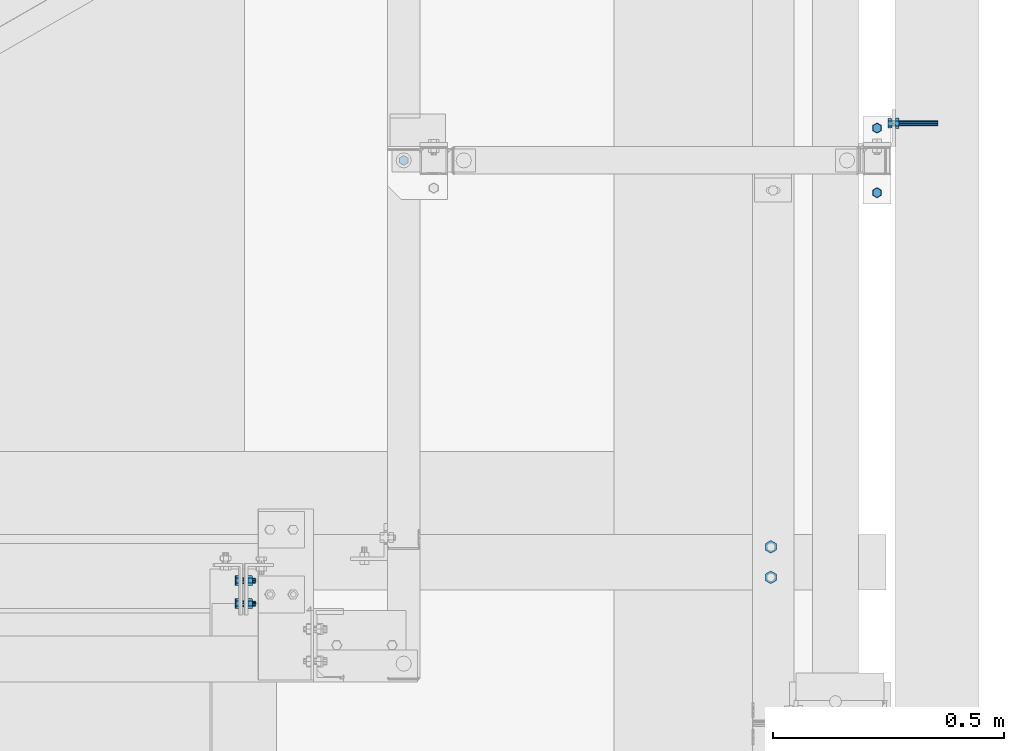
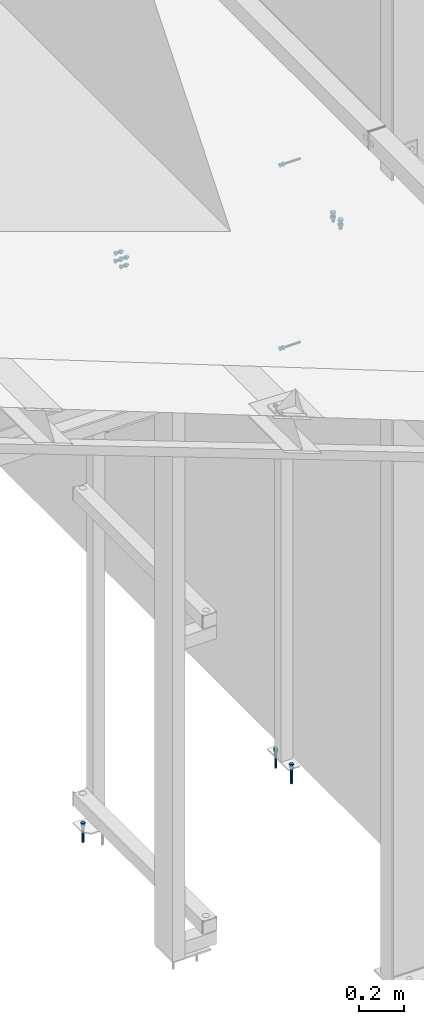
# One storey, part 395 of 3134: 7 mechanical fasteners, 6 elements without a shape of their own.
"""IFC2X3 building model written with IfcOpenShell, lengths in millimetres."""

from ifc_helpers import new_model, si_unit, frame, origin_with_axes, place, context, subcontext, project, spatial, faceted_brep, source, transform, mapped, material, type_object, element, aggregate, save


model = new_model("IFC2X3")

# Units and contexts
model_context = context("Model", 3, precision=1e-05, world=origin_with_axes())
body_context = subcontext(model_context, "Body", "Model", "MODEL_VIEW")
ifc_project = project(units=[si_unit("LENGTHUNIT", "METRE", prefix="MILLI"), si_unit("AREAUNIT", "SQUARE_METRE"), si_unit("VOLUMEUNIT", "CUBIC_METRE"), si_unit("MASSUNIT", "GRAM", prefix="KILO"), si_unit("TIMEUNIT", "SECOND"), si_unit("PLANEANGLEUNIT", "RADIAN"), si_unit("SOLIDANGLEUNIT", "STERADIAN"), si_unit("THERMODYNAMICTEMPERATUREUNIT", "DEGREE_CELSIUS"), si_unit("LUMINOUSINTENSITYUNIT", "LUMEN")], contexts=[model_context])

# Site, building, storey
site_placement = place(None, origin_with_axes())
site = spatial("IfcSite", under=ifc_project, at=site_placement, CompositionType="ELEMENT")
building_placement = place(site_placement, origin_with_axes())
building = spatial("IfcBuilding", under=site, at=building_placement, Name="Undefined", CompositionType="ELEMENT")
storey_placement = place(building_placement, origin_with_axes())
storey = spatial("IfcBuildingStorey", under=building, at=storey_placement, Name="Undefined", CompositionType="ELEMENT", Elevation=0.0)

# Assembly, mechanical fastener
assembly_1_placement = place(storey_placement, origin_with_axes())
assembly_1 = element("IfcElementAssembly", 1, at=assembly_1_placement, inside=storey, AssemblyPlace="NOTDEFINED", PredefinedType="RIGID_FRAME")
ifc_material_1 = material(Name="HILTI-HSA")
mechanical_fastener_type = type_object("IfcMechanicalFastenerType", Name="Bolt assembly")
shared_shape_1 = source(origin_with_axes(), body_context, "Body", "Brep", [
    faceted_brep([(10.3923048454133, -13.92, 0.0), (5.19615242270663, -13.92, 9.0), (-5.19615242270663, -13.92, 9.0), (-10.3923048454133, -13.92, 1.27269028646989e-15), (-5.19615242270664, -13.92, -9.0), (5.19615242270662, -13.92, -9.0), (5.19615242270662, -6.0, -9.0), (-5.19615242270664, -6.0, -9.0), (-10.3923048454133, -6.0, 1.27269028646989e-15), (-5.19615242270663, -6.0, 9.0), (5.19615242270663, -6.0, 9.0), (10.3923048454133, -6.0, 0.0), (6.0, -6.0, 0.0), (5.19615242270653, -6.0, 3.00000000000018), (2.99999999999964, -6.0, 5.19615242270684), (-6.21801588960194e-13, -6.0, 6.0), (-3.00000000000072, -6.0, 5.19615242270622), (-5.19615242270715, -6.0, 2.9999999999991), (-6.0, -6.0, -1.24360317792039e-12), (-5.19615242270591, -6.0, -3.00000000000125), (-2.99999999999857, -6.0, -5.19615242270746), (1.85874342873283e-12, -6.0, -6.0), (3.00000000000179, -6.0, -5.1961524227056), (5.19615242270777, -6.0, -2.99999999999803), (5.19615242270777, 94.0, -2.99999999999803), (3.00000000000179, 94.0, -5.1961524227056), (1.85874342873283e-12, 94.0, -6.0), (-2.99999999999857, 94.0, -5.19615242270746), (-5.19615242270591, 94.0, -3.00000000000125), (-6.0, 94.0, -1.24360317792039e-12), (-5.19615242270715, 94.0, 2.9999999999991), (-3.00000000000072, 94.0, 5.19615242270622), (-6.21801588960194e-13, 94.0, 6.0), (2.99999999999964, 94.0, 5.19615242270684), (5.19615242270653, 94.0, 3.00000000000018), (6.0, 94.0, 0.0), (11.5008173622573, 0.0, 0.0), (5.75040868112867, 0.0, 9.96), (-5.75040868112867, 0.0, 9.96), (-11.5008173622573, 0.0, 1.40844391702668e-15), (-5.75040868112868, 0.0, -9.96), (5.75040868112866, 0.0, -9.96), (5.75040868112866, 7.92, -9.96), (-5.75040868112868, 7.92, -9.96), (-11.5008173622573, 7.92, 1.40844391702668e-15), (-5.75040868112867, 7.92, 9.96), (5.75040868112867, 7.92, 9.96), (11.5008173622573, 7.92, 0.0)], [[[0, 1, 2, 3, 4, 5]], [[6, 7, 8, 9, 10, 11]], [[0, 11, 10, 1]], [[1, 10, 9, 2]], [[2, 9, 8, 3]], [[3, 8, 7, 4]], [[4, 7, 6, 5]], [[5, 6, 11, 0]], [[12, 13, 14, 15, 16, 17, 18, 19, 20, 21, 22, 23]], [[24, 25, 26, 27, 28, 29, 30, 31, 32, 33, 34, 35]], [[12, 35, 34, 13]], [[13, 34, 33, 14]], [[14, 33, 32, 15]], [[15, 32, 31, 16]], [[16, 31, 30, 17]], [[17, 30, 29, 18]], [[18, 29, 28, 19]], [[19, 28, 27, 20]], [[20, 27, 26, 21]], [[21, 26, 25, 22]], [[22, 25, 24, 23]], [[23, 24, 35, 12]], [[36, 37, 38, 39, 40, 41]], [[42, 43, 44, 45, 46, 47]], [[36, 47, 46, 37]], [[37, 46, 45, 38]], [[38, 45, 44, 39]], [[39, 44, 43, 40]], [[40, 43, 42, 41]], [[41, 42, 47, 36]]]),
    faceted_brep([(7.0, -6.0, 0.0), (6.06217782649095, -6.0, 3.50000000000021), (3.49999999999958, -6.0, 6.06217782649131), (-7.25435187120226e-13, -6.0, 7.0), (-3.50000000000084, -6.0, 6.06217782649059), (-6.06217782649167, -6.0, 3.49999999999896), (-7.0, -6.0, -1.45087037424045e-12), (-6.06217782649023, -6.0, -3.50000000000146), (-3.49999999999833, -6.0, -6.06217782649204), (2.1685340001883e-12, -6.0, -7.0), (3.50000000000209, -6.0, -6.06217782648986), (6.0621778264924, -6.0, -3.4999999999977), (6.0621778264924, 0.0999999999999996, -3.4999999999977), (3.50000000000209, 0.0999999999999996, -6.06217782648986), (2.1685340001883e-12, 0.0999999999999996, -7.0), (-3.49999999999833, 0.0999999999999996, -6.06217782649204), (-6.06217782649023, 0.0999999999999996, -3.50000000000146), (-7.0, 0.0999999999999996, -1.45087037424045e-12), (-6.06217782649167, 0.0999999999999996, 3.49999999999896), (-3.50000000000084, 0.0999999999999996, 6.06217782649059), (-7.25435187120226e-13, 0.0999999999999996, 7.0), (3.49999999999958, 0.0999999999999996, 6.06217782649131), (6.06217782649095, 0.0999999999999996, 3.50000000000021), (7.0, 0.0999999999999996, 0.0)], [[[0, 1, 2, 3, 4, 5, 6, 7, 8, 9, 10, 11]], [[12, 13, 14, 15, 16, 17, 18, 19, 20, 21, 22, 23]], [[0, 23, 22, 1]], [[1, 22, 21, 2]], [[2, 21, 20, 3]], [[3, 20, 19, 4]], [[4, 19, 18, 5]], [[5, 18, 17, 6]], [[6, 17, 16, 7]], [[7, 16, 15, 8]], [[8, 15, 14, 9]], [[9, 14, 13, 10]], [[10, 13, 12, 11]], [[11, 12, 23, 0]]]),
])
mechanical_fastener_1_placement = place(assembly_1_placement, frame((78290.0, 20670.0, 0.0), z_axis=(-1.0, 0.0, 0.0), x_axis=(0.0, 1.0, 0.0)))
mechanical_fastener_1 = element("IfcMechanicalFastener", 2, at=mechanical_fastener_1_placement, type_object=mechanical_fastener_type, material=ifc_material_1, Name="Bolt assembly", NominalDiameter=12.0, NominalLength=100.0, context=body_context, shape_type="MappedRepresentation", body=[
    mapped(shared_shape_1, transform((0.0, 0.0, 0.0))),
])
aggregate(assembly_1, [mechanical_fastener_1])

# Assembly, mechanical fasteners
assembly_2_placement = place(storey_placement, origin_with_axes())
assembly_2 = element("IfcElementAssembly", 3, at=assembly_2_placement, inside=storey, AssemblyPlace="NOTDEFINED", PredefinedType="RIGID_FRAME")
mechanical_fastener_2_placement = place(assembly_2_placement, frame((79314.9999999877, 20740.0, 0.0), z_axis=(1.0, 0.0, 0.0), x_axis=(0.0, -1.0, 0.0)))
mechanical_fastener_2 = element("IfcMechanicalFastener", 4, at=mechanical_fastener_2_placement, type_object=mechanical_fastener_type, material=ifc_material_1, Name="Bolt assembly", NominalDiameter=12.0, NominalLength=100.0, context=body_context, shape_type="MappedRepresentation", body=[
    mapped(shared_shape_1, transform((0.0, 0.0, 0.0))),
])
mechanical_fastener_3_placement = place(assembly_2_placement, frame((79314.9999999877, 20600.0, 0.0), z_axis=(-1.0, 0.0, 0.0), x_axis=(0.0, 1.0, 0.0)))
mechanical_fastener_3 = element("IfcMechanicalFastener", 5, at=mechanical_fastener_3_placement, type_object=mechanical_fastener_type, material=ifc_material_1, Name="Bolt assembly", NominalDiameter=12.0, NominalLength=100.0, context=body_context, shape_type="MappedRepresentation", body=[
    mapped(shared_shape_1, transform((0.0, 0.0, 0.0))),
])
aggregate(assembly_2, [mechanical_fastener_2, mechanical_fastener_3])

# Assembly, mechanical fastener
assembly_3_placement = place(storey_placement, origin_with_axes())
assembly_3 = element("IfcElementAssembly", 6, at=assembly_3_placement, inside=storey, AssemblyPlace="NOTDEFINED", PredefinedType="RIGID_FRAME")
shared_shape_2 = source(origin_with_axes(), body_context, "Body", "Brep", [
    faceted_brep([(10.3923048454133, -15.92, 0.0), (5.19615242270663, -15.92, 9.0), (-5.19615242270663, -15.92, 9.0), (-10.3923048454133, -15.92, 1.27269028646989e-15), (-5.19615242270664, -15.92, -9.0), (5.19615242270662, -15.92, -9.0), (5.19615242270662, -8.0, -9.0), (-5.19615242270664, -8.0, -9.0), (-10.3923048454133, -8.0, 1.27269028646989e-15), (-5.19615242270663, -8.0, 9.0), (5.19615242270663, -8.0, 9.0), (10.3923048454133, -8.0, 0.0), (6.0, -8.0, 0.0), (5.19615242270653, -8.0, 3.00000000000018), (2.99999999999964, -8.0, 5.19615242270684), (-6.21801588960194e-13, -8.0, 6.0), (-3.00000000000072, -8.0, 5.19615242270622), (-5.19615242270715, -8.0, 2.9999999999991), (-6.0, -8.0, -1.24360317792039e-12), (-5.19615242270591, -8.0, -3.00000000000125), (-2.99999999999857, -8.0, -5.19615242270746), (1.85874342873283e-12, -8.0, -6.0), (3.00000000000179, -8.0, -5.1961524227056), (5.19615242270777, -8.0, -2.99999999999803), (5.19615242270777, 92.0, -2.99999999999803), (3.00000000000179, 92.0, -5.1961524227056), (1.85874342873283e-12, 92.0, -6.0), (-2.99999999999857, 92.0, -5.19615242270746), (-5.19615242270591, 92.0, -3.00000000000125), (-6.0, 92.0, -1.24360317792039e-12), (-5.19615242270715, 92.0, 2.9999999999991), (-3.00000000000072, 92.0, 5.19615242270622), (-6.21801588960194e-13, 92.0, 6.0), (2.99999999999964, 92.0, 5.19615242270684), (5.19615242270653, 92.0, 3.00000000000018), (6.0, 92.0, 0.0), (11.5008173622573, 0.0, 0.0), (5.75040868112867, 0.0, 9.96), (-5.75040868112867, 0.0, 9.96), (-11.5008173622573, 0.0, 1.40844391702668e-15), (-5.75040868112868, 0.0, -9.96), (5.75040868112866, 0.0, -9.96), (5.75040868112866, 7.92, -9.96), (-5.75040868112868, 7.92, -9.96), (-11.5008173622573, 7.92, 1.40844391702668e-15), (-5.75040868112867, 7.92, 9.96), (5.75040868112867, 7.92, 9.96), (11.5008173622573, 7.92, 0.0)], [[[0, 1, 2, 3, 4, 5]], [[6, 7, 8, 9, 10, 11]], [[0, 11, 10, 1]], [[1, 10, 9, 2]], [[2, 9, 8, 3]], [[3, 8, 7, 4]], [[4, 7, 6, 5]], [[5, 6, 11, 0]], [[12, 13, 14, 15, 16, 17, 18, 19, 20, 21, 22, 23]], [[24, 25, 26, 27, 28, 29, 30, 31, 32, 33, 34, 35]], [[12, 35, 34, 13]], [[13, 34, 33, 14]], [[14, 33, 32, 15]], [[15, 32, 31, 16]], [[16, 31, 30, 17]], [[17, 30, 29, 18]], [[18, 29, 28, 19]], [[19, 28, 27, 20]], [[20, 27, 26, 21]], [[21, 26, 25, 22]], [[22, 25, 24, 23]], [[23, 24, 35, 12]], [[36, 37, 38, 39, 40, 41]], [[42, 43, 44, 45, 46, 47]], [[36, 47, 46, 37]], [[37, 46, 45, 38]], [[38, 45, 44, 39]], [[39, 44, 43, 40]], [[40, 43, 42, 41]], [[41, 42, 47, 36]]]),
    faceted_brep([(7.0, -8.0, 0.0), (6.06217782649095, -8.0, 3.50000000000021), (3.49999999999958, -8.0, 6.06217782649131), (-7.25435187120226e-13, -8.0, 7.0), (-3.50000000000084, -8.0, 6.06217782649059), (-6.06217782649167, -8.0, 3.49999999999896), (-7.0, -8.0, -1.45087037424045e-12), (-6.06217782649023, -8.0, -3.50000000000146), (-3.49999999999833, -8.0, -6.06217782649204), (2.1685340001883e-12, -8.0, -7.0), (3.50000000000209, -8.0, -6.06217782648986), (6.0621778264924, -8.0, -3.4999999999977), (6.0621778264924, 0.0999999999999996, -3.4999999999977), (3.50000000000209, 0.0999999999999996, -6.06217782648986), (2.1685340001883e-12, 0.0999999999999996, -7.0), (-3.49999999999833, 0.0999999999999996, -6.06217782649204), (-6.06217782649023, 0.0999999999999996, -3.50000000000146), (-7.0, 0.0999999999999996, -1.45087037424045e-12), (-6.06217782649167, 0.0999999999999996, 3.49999999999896), (-3.50000000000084, 0.0999999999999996, 6.06217782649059), (-7.25435187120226e-13, 0.0999999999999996, 7.0), (3.49999999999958, 0.0999999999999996, 6.06217782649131), (6.06217782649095, 0.0999999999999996, 3.50000000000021), (7.0, 0.0999999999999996, 0.0)], [[[0, 1, 2, 3, 4, 5, 6, 7, 8, 9, 10, 11]], [[12, 13, 14, 15, 16, 17, 18, 19, 20, 21, 22, 23]], [[0, 23, 22, 1]], [[1, 22, 21, 2]], [[2, 21, 20, 3]], [[3, 20, 19, 4]], [[4, 19, 18, 5]], [[5, 18, 17, 6]], [[6, 17, 16, 7]], [[7, 16, 15, 8]], [[8, 15, 14, 9]], [[9, 14, 13, 10]], [[10, 13, 12, 11]], [[11, 12, 23, 0]]]),
])
mechanical_fastener_4_placement = place(assembly_3_placement, frame((79355.0, 20750.0, 2155.0), z_axis=(0.0, 0.0, 1.0), x_axis=(0.0, -1.0, 0.0)))
mechanical_fastener_4 = element("IfcMechanicalFastener", 7, at=mechanical_fastener_4_placement, type_object=mechanical_fastener_type, material=ifc_material_1, Name="Bolt assembly", NominalDiameter=12.0, NominalLength=100.0, context=body_context, shape_type="MappedRepresentation", body=[
    mapped(shared_shape_2, transform((0.0, 0.0, 0.0))),
])
aggregate(assembly_3, [mechanical_fastener_4])

assembly_4_placement = place(storey_placement, origin_with_axes())
assembly_4 = element("IfcElementAssembly", 8, at=assembly_4_placement, inside=storey, AssemblyPlace="NOTDEFINED", PredefinedType="RIGID_FRAME")
mechanical_fastener_5_placement = place(assembly_4_placement, frame((79355.0, 20750.0, 3145.98), z_axis=(0.0, 0.0, 1.0), x_axis=(0.0, -1.0, 0.0)))
mechanical_fastener_5 = element("IfcMechanicalFastener", 9, at=mechanical_fastener_5_placement, type_object=mechanical_fastener_type, material=ifc_material_1, Name="Bolt assembly", NominalDiameter=12.0, NominalLength=100.0, context=body_context, shape_type="MappedRepresentation", body=[
    mapped(shared_shape_2, transform((0.0, 0.0, 0.0))),
])
aggregate(assembly_4, [mechanical_fastener_5])

assembly_5_placement = place(storey_placement, origin_with_axes())
assembly_5 = element("IfcElementAssembly", 10, at=assembly_5_placement, inside=storey, Name="UPN260", AssemblyPlace="NOTDEFINED", PredefinedType="RIGID_FRAME")
ifc_material_2 = material(Name="8.8")
shared_shape_3 = source(origin_with_axes(), body_context, "Body", "Brep", [
    faceted_brep([(13.856406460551, -10.0, 0.0), (6.92820323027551, -10.0, 12.0), (-6.92820323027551, -10.0, 12.0), (-13.856406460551, -10.0, 1.69692038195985e-15), (-6.92820323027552, -10.0, -12.0), (6.9282032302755, -10.0, -12.0), (6.9282032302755, 0.0, -12.0), (-6.92820323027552, 0.0, -12.0), (-13.856406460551, 0.0, 1.69692038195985e-15), (-6.92820323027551, 0.0, 12.0), (6.92820323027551, 0.0, 12.0), (13.856406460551, 0.0, 0.0), (8.0, 0.0, 0.0), (6.92820323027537, 0.0, 4.00000000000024), (3.99999999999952, 0.0, 6.92820323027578), (-8.29068785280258e-13, 0.0, 8.0), (-4.00000000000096, 0.0, 6.92820323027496), (-6.9282032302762, 0.0, 3.99999999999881), (-8.0, 0.0, -1.65813757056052e-12), (-6.92820323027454, 0.0, -4.00000000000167), (-3.99999999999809, 0.0, -6.92820323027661), (2.47832457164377e-12, 0.0, -8.0), (4.00000000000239, 0.0, -6.92820323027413), (6.92820323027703, 0.0, -3.99999999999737), (6.92820323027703, 45.0, -3.99999999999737), (4.00000000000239, 45.0, -6.92820323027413), (2.47832457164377e-12, 45.0, -8.0), (-3.99999999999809, 45.0, -6.92820323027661), (-6.92820323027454, 45.0, -4.00000000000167), (-8.0, 45.0, -1.65813757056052e-12), (-6.9282032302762, 45.0, 3.99999999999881), (-4.00000000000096, 45.0, 6.92820323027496), (-8.29068785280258e-13, 45.0, 8.0), (3.99999999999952, 45.0, 6.92820323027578), (6.92820323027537, 45.0, 4.00000000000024), (8.0, 45.0, 0.0), (13.856406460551, 13.9999999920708, 0.0), (6.92820323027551, 13.9999999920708, 12.0), (-6.92820323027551, 13.9999999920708, 12.0), (-13.856406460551, 13.9999999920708, 1.69692038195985e-15), (-6.92820323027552, 13.9999999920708, -12.0), (6.9282032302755, 13.9999999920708, -12.0), (6.9282032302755, 27.0, -12.0), (-6.92820323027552, 27.0, -12.0), (-13.856406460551, 27.0, 1.69692038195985e-15), (-6.92820323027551, 27.0, 12.0), (6.92820323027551, 27.0, 12.0), (13.856406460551, 27.0, 0.0)], [[[0, 1, 2, 3, 4, 5]], [[6, 7, 8, 9, 10, 11]], [[0, 11, 10, 1]], [[1, 10, 9, 2]], [[2, 9, 8, 3]], [[3, 8, 7, 4]], [[4, 7, 6, 5]], [[5, 6, 11, 0]], [[12, 13, 14, 15, 16, 17, 18, 19, 20, 21, 22, 23]], [[24, 25, 26, 27, 28, 29, 30, 31, 32, 33, 34, 35]], [[12, 35, 34, 13]], [[13, 34, 33, 14]], [[14, 33, 32, 15]], [[15, 32, 31, 16]], [[16, 31, 30, 17]], [[17, 30, 29, 18]], [[18, 29, 28, 19]], [[19, 28, 27, 20]], [[20, 27, 26, 21]], [[21, 26, 25, 22]], [[22, 25, 24, 23]], [[23, 24, 35, 12]], [[36, 37, 38, 39, 40, 41]], [[42, 43, 44, 45, 46, 47]], [[36, 47, 46, 37]], [[37, 46, 45, 38]], [[38, 45, 44, 39]], [[39, 44, 43, 40]], [[40, 43, 42, 41]], [[41, 42, 47, 36]]]),
    faceted_brep([(9.0, -3.46568413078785e-07, 0.0), (7.79422863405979, -3.46568413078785e-07, 4.50000000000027), (4.49999999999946, -3.46568413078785e-07, 7.79422863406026), (-9.3270238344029e-13, -3.46568413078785e-07, 9.0), (-4.50000000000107, -3.46568413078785e-07, 7.79422863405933), (-7.79422863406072, -3.46568413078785e-07, 4.49999999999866), (-9.0, -3.46568413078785e-07, -1.86540476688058e-12), (-7.79422863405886, -3.46568413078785e-07, -4.50000000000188), (-4.49999999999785, -3.46568413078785e-07, -7.79422863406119), (2.78811514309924e-12, -3.46568413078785e-07, -9.0), (4.50000000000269, -3.46568413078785e-07, -7.7942286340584), (7.79422863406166, -3.46568413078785e-07, -4.49999999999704), (7.79422863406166, 14.1000000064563, -4.49999999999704), (4.50000000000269, 14.1000000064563, -7.7942286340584), (2.78811514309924e-12, 14.1000000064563, -9.0), (-4.49999999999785, 14.1000000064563, -7.79422863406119), (-7.79422863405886, 14.1000000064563, -4.50000000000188), (-9.0, 14.1000000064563, -1.86540476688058e-12), (-7.79422863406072, 14.1000000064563, 4.49999999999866), (-4.50000000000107, 14.1000000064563, 7.79422863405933), (-9.3270238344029e-13, 14.1000000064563, 9.0), (4.49999999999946, 14.1000000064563, 7.79422863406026), (7.79422863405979, 14.1000000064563, 4.50000000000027), (9.0, 14.1000000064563, 0.0)], [[[0, 1, 2, 3, 4, 5, 6, 7, 8, 9, 10, 11]], [[12, 13, 14, 15, 16, 17, 18, 19, 20, 21, 22, 23]], [[0, 23, 22, 1]], [[1, 22, 21, 2]], [[2, 21, 20, 3]], [[3, 20, 19, 4]], [[4, 19, 18, 5]], [[5, 18, 17, 6]], [[6, 17, 16, 7]], [[7, 16, 15, 8]], [[8, 15, 14, 9]], [[9, 14, 13, 10]], [[10, 13, 12, 11]], [[11, 12, 23, 0]]]),
])
mechanical_fastener_6_placement = place(assembly_5_placement, frame((79085.0, 19767.003333, 3532.964809), z_axis=(-1.0, 0.0, 0.0), x_axis=(0.0, 1.0, 0.0)))
mechanical_fastener_6 = element("IfcMechanicalFastener", 11, at=mechanical_fastener_6_placement, type_object=mechanical_fastener_type, material=ifc_material_2, Name="Bolt assembly", NominalDiameter=16.0, NominalLength=45.0, context=body_context, shape_type="MappedRepresentation", body=[
    mapped(shared_shape_3, transform((0.0, 0.0, 0.0))),
    mapped(shared_shape_3, transform((66.0, 0.0, 0.0))),
])
aggregate(assembly_5, [mechanical_fastener_6])

assembly_6_placement = place(storey_placement, origin_with_axes())
assembly_6 = element("IfcElementAssembly", 12, at=assembly_6_placement, inside=storey, AssemblyPlace="NOTDEFINED", PredefinedType="RIGID_FRAME")
shared_shape_4 = source(origin_with_axes(), body_context, "Body", "Brep", [
    faceted_brep([(10.9696551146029, -19.2575524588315, 0.0), (5.48482755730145, -19.2575524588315, 9.5), (-5.48482755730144, -19.2575524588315, 9.5), (-10.9696551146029, -19.2575524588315, 1.34339530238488e-15), (-5.48482755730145, -19.2575524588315, -9.5), (5.48482755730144, -19.2575524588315, -9.50000000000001), (5.48482755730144, -11.2575524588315, -9.50000000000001), (-5.48482755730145, -11.2575524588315, -9.5), (-10.9696551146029, -11.2575524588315, 1.34339530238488e-15), (-5.48482755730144, -11.2575524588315, 9.5), (5.48482755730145, -11.2575524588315, 9.5), (10.9696551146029, -11.2575524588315, 0.0), (6.0, -11.2575524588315, 0.0), (5.19615242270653, -11.2575524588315, 3.00000000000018), (2.99999999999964, -11.2575524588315, 5.19615242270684), (-6.21801588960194e-13, -11.2575524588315, 6.0), (-3.00000000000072, -11.2575524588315, 5.19615242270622), (-5.19615242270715, -11.2575524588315, 2.9999999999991), (-6.0, -11.2575524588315, -1.24360317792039e-12), (-5.19615242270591, -11.2575524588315, -3.00000000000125), (-2.99999999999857, -11.2575524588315, -5.19615242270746), (1.85874342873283e-12, -11.2575524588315, -6.0), (3.00000000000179, -11.2575524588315, -5.1961524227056), (5.19615242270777, -11.2575524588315, -2.99999999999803), (5.19615242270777, 23.7424475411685, -2.99999999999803), (3.00000000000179, 23.7424475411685, -5.1961524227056), (1.85874342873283e-12, 23.7424475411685, -6.0), (-2.99999999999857, 23.7424475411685, -5.19615242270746), (-5.19615242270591, 23.7424475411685, -3.00000000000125), (-6.0, 23.7424475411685, -1.24360317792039e-12), (-5.19615242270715, 23.7424475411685, 2.9999999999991), (-3.00000000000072, 23.7424475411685, 5.19615242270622), (-6.21801588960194e-13, 23.7424475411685, 6.0), (2.99999999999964, 23.7424475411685, 5.19615242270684), (5.19615242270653, 23.7424475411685, 3.00000000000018), (6.0, 23.7424475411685, 0.0), (10.9696551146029, 6.25018760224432, 0.0), (5.48482755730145, 6.25018760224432, 9.5), (-5.48482755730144, 6.25018760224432, 9.5), (-10.9696551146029, 6.25018760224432, 1.34339530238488e-15), (-5.48482755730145, 6.25018760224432, -9.5), (5.48482755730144, 6.25018760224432, -9.50000000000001), (5.48482755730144, 16.2501876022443, -9.50000000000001), (-5.48482755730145, 16.2501876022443, -9.5), (-10.9696551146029, 16.2501876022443, 1.34339530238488e-15), (-5.48482755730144, 16.2501876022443, 9.5), (5.48482755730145, 16.2501876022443, 9.5), (10.9696551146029, 16.2501876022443, 0.0)], [[[0, 1, 2, 3, 4, 5]], [[6, 7, 8, 9, 10, 11]], [[0, 11, 10, 1]], [[1, 10, 9, 2]], [[2, 9, 8, 3]], [[3, 8, 7, 4]], [[4, 7, 6, 5]], [[5, 6, 11, 0]], [[12, 13, 14, 15, 16, 17, 18, 19, 20, 21, 22, 23]], [[24, 25, 26, 27, 28, 29, 30, 31, 32, 33, 34, 35]], [[12, 35, 34, 13]], [[13, 34, 33, 14]], [[14, 33, 32, 15]], [[15, 32, 31, 16]], [[16, 31, 30, 17]], [[17, 30, 29, 18]], [[18, 29, 28, 19]], [[19, 28, 27, 20]], [[20, 27, 26, 21]], [[21, 26, 25, 22]], [[22, 25, 24, 23]], [[23, 24, 35, 12]], [[36, 37, 38, 39, 40, 41]], [[42, 43, 44, 45, 46, 47]], [[36, 47, 46, 37]], [[37, 46, 45, 38]], [[38, 45, 44, 39]], [[39, 44, 43, 40]], [[40, 43, 42, 41]], [[41, 42, 47, 36]]]),
    faceted_brep([(7.0, -11.1575524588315, 0.0), (6.06217782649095, -11.1575524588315, 3.50000000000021), (3.49999999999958, -11.1575524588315, 6.06217782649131), (-7.25435187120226e-13, -11.1575524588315, 7.0), (-3.50000000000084, -11.1575524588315, 6.06217782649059), (-6.06217782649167, -11.1575524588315, 3.49999999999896), (-7.0, -11.1575524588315, -1.45087037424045e-12), (-6.06217782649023, -11.1575524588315, -3.50000000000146), (-3.49999999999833, -11.1575524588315, -6.06217782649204), (2.1685340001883e-12, -11.1575524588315, -7.0), (3.50000000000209, -11.1575524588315, -6.06217782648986), (6.0621778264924, -11.1575524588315, -3.4999999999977), (6.0621778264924, -5.15755245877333, -3.4999999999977), (3.50000000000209, -5.15755245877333, -6.06217782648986), (2.1685340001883e-12, -5.15755245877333, -7.0), (-3.49999999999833, -5.15755245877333, -6.06217782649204), (-6.06217782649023, -5.15755245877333, -3.50000000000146), (-7.0, -5.15755245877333, -1.45087037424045e-12), (-6.06217782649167, -5.15755245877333, 3.49999999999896), (-3.50000000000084, -5.15755245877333, 6.06217782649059), (-7.25435187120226e-13, -5.15755245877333, 7.0), (3.49999999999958, -5.15755245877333, 6.06217782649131), (6.06217782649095, -5.15755245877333, 3.50000000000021), (7.0, -5.15755245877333, 0.0), (7.0, 0.150187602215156, 0.0), (6.06217782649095, 0.150187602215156, 3.50000000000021), (3.49999999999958, 0.150187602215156, 6.06217782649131), (-7.25435187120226e-13, 0.150187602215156, 7.0), (-3.50000000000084, 0.150187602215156, 6.06217782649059), (-6.06217782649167, 0.150187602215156, 3.49999999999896), (-7.0, 0.150187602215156, -1.45087037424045e-12), (-6.06217782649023, 0.150187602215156, -3.50000000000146), (-3.49999999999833, 0.150187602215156, -6.06217782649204), (2.1685340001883e-12, 0.150187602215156, -7.0), (3.50000000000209, 0.150187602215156, -6.06217782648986), (6.0621778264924, 0.150187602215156, -3.4999999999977), (6.0621778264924, 6.25018760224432, -3.4999999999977), (3.50000000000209, 6.25018760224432, -6.06217782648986), (2.1685340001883e-12, 6.25018760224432, -7.0), (-3.49999999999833, 6.25018760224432, -6.06217782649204), (-6.06217782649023, 6.25018760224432, -3.50000000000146), (-7.0, 6.25018760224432, -1.45087037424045e-12), (-6.06217782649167, 6.25018760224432, 3.49999999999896), (-3.50000000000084, 6.25018760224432, 6.06217782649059), (-7.25435187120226e-13, 6.25018760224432, 7.0), (3.49999999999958, 6.25018760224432, 6.06217782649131), (6.06217782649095, 6.25018760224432, 3.50000000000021), (7.0, 6.25018760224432, 0.0), (7.0, -5.25082704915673, 0.0), (6.06217782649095, -5.25082704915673, 3.50000000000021), (3.49999999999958, -5.25082704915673, 6.06217782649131), (-7.25435187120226e-13, -5.25082704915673, 7.0), (-3.50000000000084, -5.25082704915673, 6.06217782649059), (-6.06217782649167, -5.25082704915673, 3.49999999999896), (-7.0, -5.25082704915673, -1.45087037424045e-12), (-6.06217782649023, -5.25082704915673, -3.50000000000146), (-3.49999999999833, -5.25082704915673, -6.06217782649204), (2.1685340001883e-12, -5.25082704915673, -7.0), (3.50000000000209, -5.25082704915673, -6.06217782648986), (6.0621778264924, -5.25082704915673, -3.4999999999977), (6.0621778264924, 0.249172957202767, -3.4999999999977), (3.50000000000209, 0.249172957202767, -6.06217782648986), (2.1685340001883e-12, 0.249172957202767, -7.0), (-3.49999999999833, 0.249172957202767, -6.06217782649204), (-6.06217782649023, 0.249172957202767, -3.50000000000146), (-7.0, 0.249172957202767, -1.45087037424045e-12), (-6.06217782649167, 0.249172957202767, 3.49999999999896), (-3.50000000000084, 0.249172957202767, 6.06217782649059), (-7.25435187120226e-13, 0.249172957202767, 7.0), (3.49999999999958, 0.249172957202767, 6.06217782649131), (6.06217782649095, 0.249172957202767, 3.50000000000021), (7.0, 0.249172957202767, 0.0)], [[[0, 1, 2, 3, 4, 5, 6, 7, 8, 9, 10, 11]], [[12, 13, 14, 15, 16, 17, 18, 19, 20, 21, 22, 23]], [[0, 23, 22, 1]], [[1, 22, 21, 2]], [[2, 21, 20, 3]], [[3, 20, 19, 4]], [[4, 19, 18, 5]], [[5, 18, 17, 6]], [[6, 17, 16, 7]], [[7, 16, 15, 8]], [[8, 15, 14, 9]], [[9, 14, 13, 10]], [[10, 13, 12, 11]], [[11, 12, 23, 0]], [[24, 25, 26, 27, 28, 29, 30, 31, 32, 33, 34, 35]], [[36, 37, 38, 39, 40, 41, 42, 43, 44, 45, 46, 47]], [[24, 47, 46, 25]], [[25, 46, 45, 26]], [[26, 45, 44, 27]], [[27, 44, 43, 28]], [[28, 43, 42, 29]], [[29, 42, 41, 30]], [[30, 41, 40, 31]], [[31, 40, 39, 32]], [[32, 39, 38, 33]], [[33, 38, 37, 34]], [[34, 37, 36, 35]], [[35, 36, 47, 24]], [[48, 49, 50, 51, 52, 53, 54, 55, 56, 57, 58, 59]], [[60, 61, 62, 63, 64, 65, 66, 67, 68, 69, 70, 71]], [[48, 71, 70, 49]], [[49, 70, 69, 50]], [[50, 69, 68, 51]], [[51, 68, 67, 52]], [[52, 67, 66, 53]], [[53, 66, 65, 54]], [[54, 65, 64, 55]], [[55, 64, 63, 56]], [[56, 63, 62, 57]], [[57, 62, 61, 58]], [[58, 61, 60, 59]], [[59, 60, 71, 48]]]),
])
mechanical_fastener_7_placement = place(assembly_6_placement, frame((77945.0588759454, 19760.0, 3743.49470157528), z_axis=(0.0309396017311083, 0.0, 0.999521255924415), x_axis=(0.0, -1.0, 0.0)))
mechanical_fastener_7 = element("IfcMechanicalFastener", 13, at=mechanical_fastener_7_placement, type_object=mechanical_fastener_type, material=ifc_material_2, Name="Bolt assembly", NominalDiameter=12.0, NominalLength=35.0, context=body_context, shape_type="MappedRepresentation", body=[
    mapped(shared_shape_4, transform((0.0, 0.0, -21.0))),
    mapped(shared_shape_4, transform((50.0, -1.01863406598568e-10, -20.9999999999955))),
    mapped(shared_shape_4, transform((0.0, 0.0, 21.0))),
    mapped(shared_shape_4, transform((50.0, 1.30967237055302e-10, 20.9999999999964))),
])
aggregate(assembly_6, [mechanical_fastener_7])

save(model, "model.ifc")
